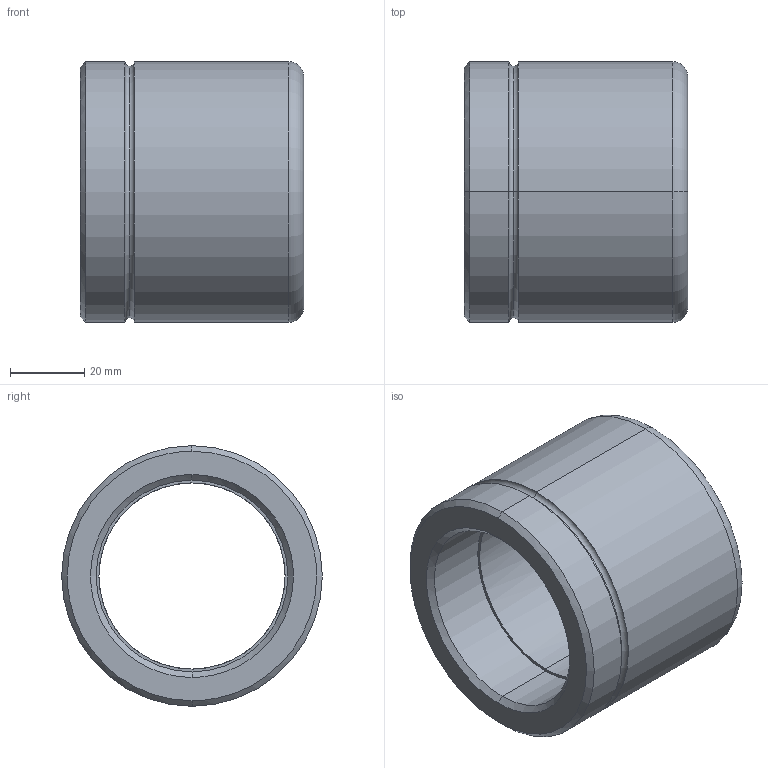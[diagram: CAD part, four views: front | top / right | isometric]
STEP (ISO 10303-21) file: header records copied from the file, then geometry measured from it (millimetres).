
FILE_DESCRIPTION(('CATIA V5 STEP Exchange'),'2;1');
FILE_NAME('C:\Users\Utente\Desktop\IO LAVORO\3D X SITO CF\X SITO\3D files 347\347-50 x 60.stp','2021-01-01T09:43:48+00:00',('none'),('none'),'CATIA Version 5 Release 20 GA (IN-10)','CATIA V5 STEP AP203','none');
FILE_SCHEMA(('CONFIG_CONTROL_DESIGN'));
Length unit declared in the file: millimetre
Products named in the file (1): 347-50 x 60
Bounding box: 60 x 70 x 70 mm (x, y, z)
Volume: 108644.9 mm3; surface area: 26278.6 mm2
Topology: 1 solids, 1 shells, 29 faces, 86 edges, 60 vertices
Faces by surface type: torus 12, cylinder 10, cone 4, plane 3
Entity records: 1154 total; most frequent: CARTESIAN_POINT 344, ORIENTED_EDGE 172, DIRECTION 132, AXIS2_PLACEMENT_3D 90, EDGE_CURVE 86, CIRCLE 60, VERTEX_POINT 60, EDGE_LOOP 32
